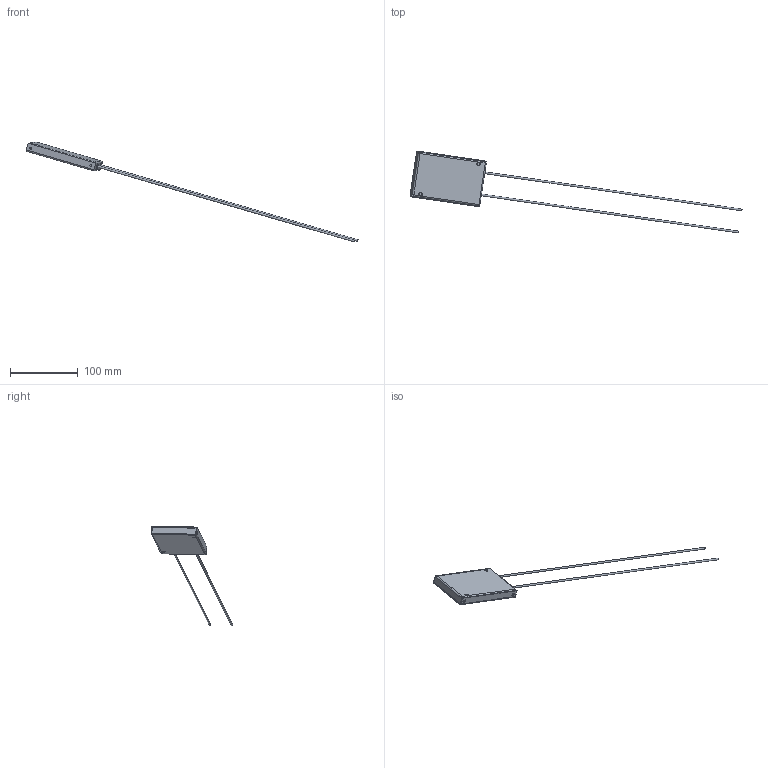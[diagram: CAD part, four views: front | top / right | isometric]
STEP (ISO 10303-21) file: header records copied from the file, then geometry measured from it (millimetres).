
FILE_DESCRIPTION(/* description */ (''),/* implementation_level */ '2;1');
FILE_NAME(/* name */ 'C:\_Vault\Dati\CATALOGO\RFX\RFX1300-600\RFX600.stp',/* time_stamp */ '2014-03-25T19:57:41+01:00',/* author */ ('andreac'),/* organization */ (''),/* preprocessor_version */ 'ST-DEVELOPER v15.2',/* originating_system */ 'Autodesk Inventor 2014',/* authorisation */ '');
FILE_SCHEMA (('AUTOMOTIVE_DESIGN { 1 0 10303 214 3 1 1 }'));
Length unit declared in the file: millimetre
Products named in the file (1): RFX600
Bounding box: 489.97 x 120.63 x 147.5 mm (x, y, z)
Volume: 24010.6 mm3; surface area: 44868.2 mm2
Topology: 5 solids, 5 shells, 106 faces, 261 edges, 159 vertices
Faces by surface type: plane 73, cylinder 33
Full cylindrical faces by diameter (mm): 2.7 x2, 3 x4, 4.8 x2, 5 x8, 6 x2, 7 x3
Entity records: 3106 total; most frequent: CARTESIAN_POINT 512, DIRECTION 511, ORIENTED_EDGE 466, EDGE_CURVE 229, AXIS2_PLACEMENT_3D 179, LINE 153, VECTOR 153, EDGE_LOOP 151
